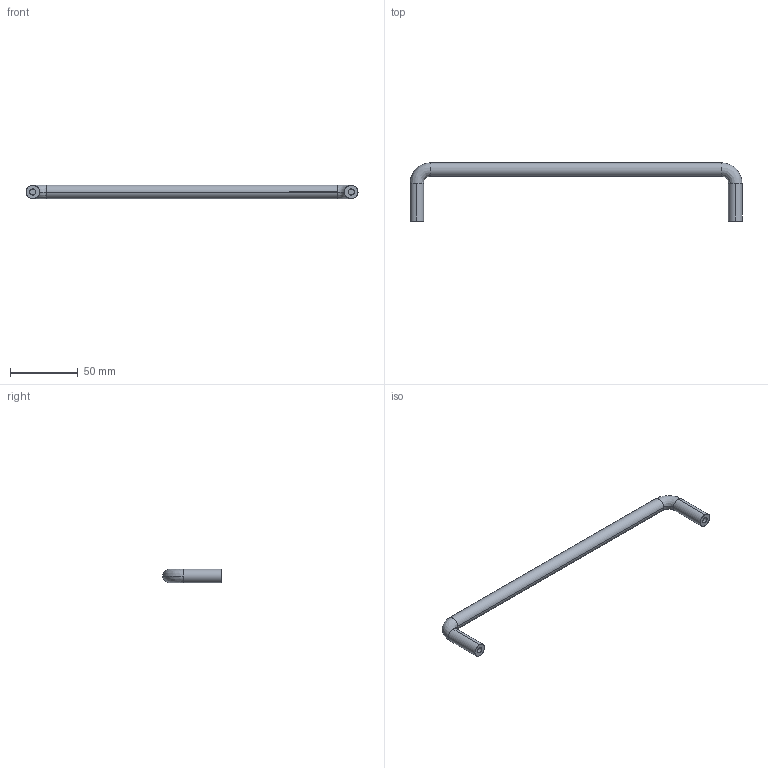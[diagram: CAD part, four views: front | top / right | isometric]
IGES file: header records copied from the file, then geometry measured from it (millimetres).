
Start section: SolidWorks IGES file using analytic representation for surfaces
Global section: file name: D:\由鑫國際內部資料\內部資料\3D圖檔\MS-742系列\742-235.IGS; native system: SolidWorks 2008; preprocessor: SolidWorks 2008; author: Administrator; date: 091201.132136; units: millimetre
Bounding box: 245 x 43 x 10 mm (x, y, z)
Surface area: 9997.9 mm2 (no closed solid volume)
Topology: 0 solids, 0 shells, 18 faces, 256 edges, 256 vertices
Faces by surface type: revolution 10, bspline 8
